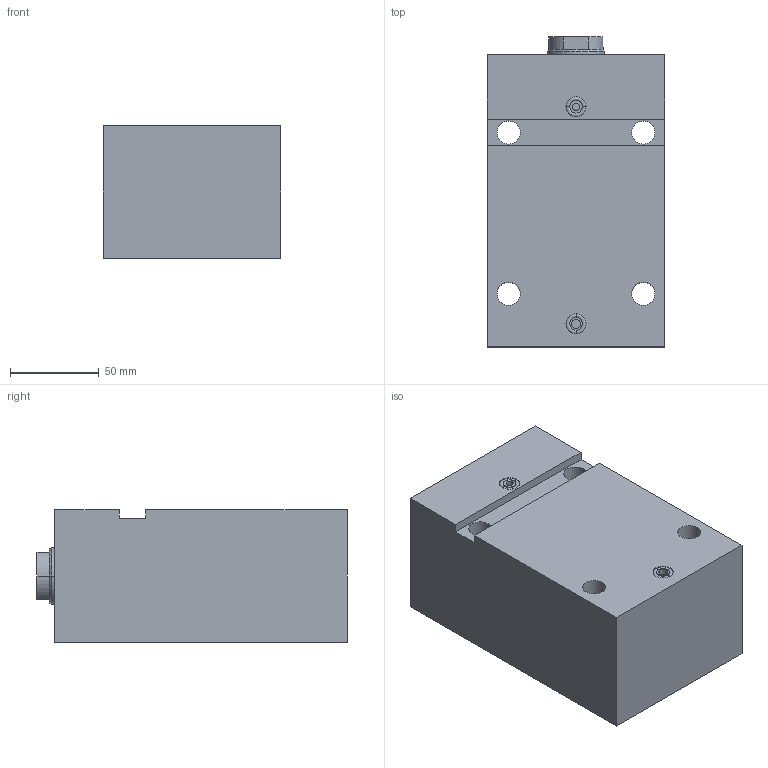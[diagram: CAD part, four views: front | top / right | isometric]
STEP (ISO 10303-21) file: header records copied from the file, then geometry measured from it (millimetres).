
FILE_DESCRIPTION (( 'STEP AP203' ), '1' );
FILE_NAME ('GERMA_Blockzylinder_604-050-100.STEP', '2016-01-24T17:22:54', ( '' ), ( '' ), 'SwSTEP 2.0', 'SolidWorks 2015', '' );
FILE_SCHEMA (( 'CONFIG_CONTROL_DESIGN' ));
Length unit declared in the file: millimetre
Products named in the file (3): GERMA_Blockzylinder_604-050-100; GH-600-050_GH-604-050-100; Kolben 60x-050_Kolben DU.50-Hub100-IG
Assembly tree (2 placements, depth 2):
  GERMA_Blockzylinder_604-050-100
    GH-600-050_GH-604-050-100
    Kolben 60x-050_Kolben DU.50-Hub100-IG
Bounding box: 100 x 175 x 75 mm (x, y, z)
Volume: 1072886.5 mm3; surface area: 132998 mm2
Topology: 2 solids, 2 shells, 85 faces, 188 edges, 114 vertices
Faces by surface type: cylinder 41, plane 26, cone 14, torus 4
Entity records: 2638 total; most frequent: DIRECTION 459, CARTESIAN_POINT 386, ORIENTED_EDGE 364, AXIS2_PLACEMENT_3D 187, EDGE_CURVE 182, VERTEX_POINT 114, EDGE_LOOP 106, CIRCLE 97
